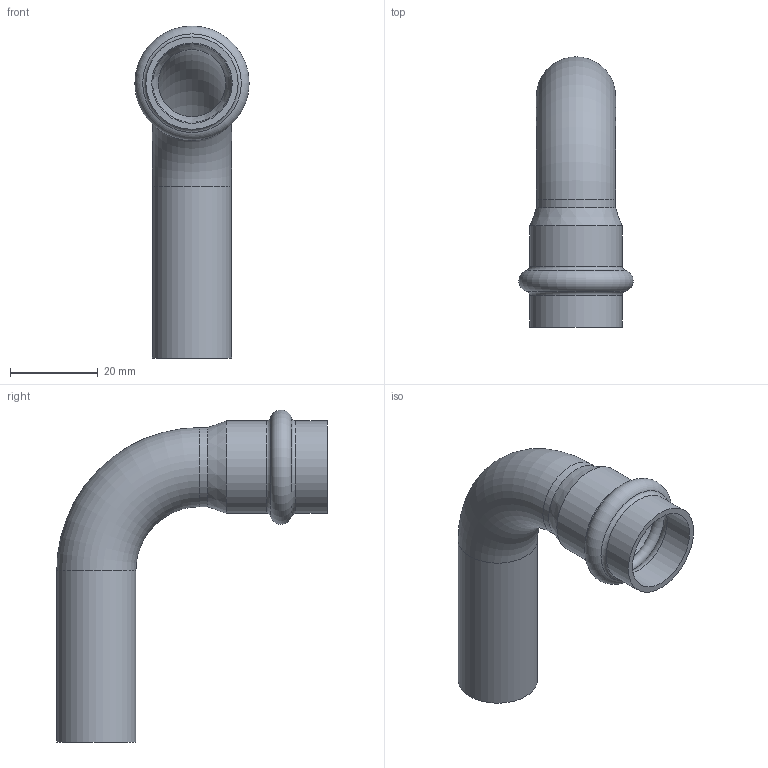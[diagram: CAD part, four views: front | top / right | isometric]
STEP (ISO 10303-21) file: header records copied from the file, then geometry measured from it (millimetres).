
FILE_DESCRIPTION(('STEP AP203'), '1');
FILE_NAME('VTi.950.I.001818', '', ('UNSPECIFIED'), ('UNSPECIFIED'), 'C3D Converter', 'C3D Toolkit', '');
FILE_SCHEMA(('CONFIG_CONTROL_DESIGN'));
Length unit declared in the file: millimetre
Products named in the file (1): ВР.302661.025.000 СБ
Bounding box: 25.99 x 61.5 x 75.5 mm (x, y, z)
Volume: 8370.4 mm3; surface area: 12368 mm2
Topology: 1 solids, 2 shells, 22 faces, 48 edges, 28 vertices
Faces by surface type: torus 10, cylinder 8, plane 2, cone 2
Full cylindrical faces by diameter (mm): 15.3 x2, 18 x2, 18.3 x2, 21 x2
Entity records: 550 total; most frequent: DIRECTION 102, CARTESIAN_POINT 79, ORIENTED_EDGE 56, AXIS2_PLACEMENT_3D 51, EDGE_LOOP 44, FACE_OUTER_BOUND 28, EDGE_CURVE 28, VERTEX_POINT 28
